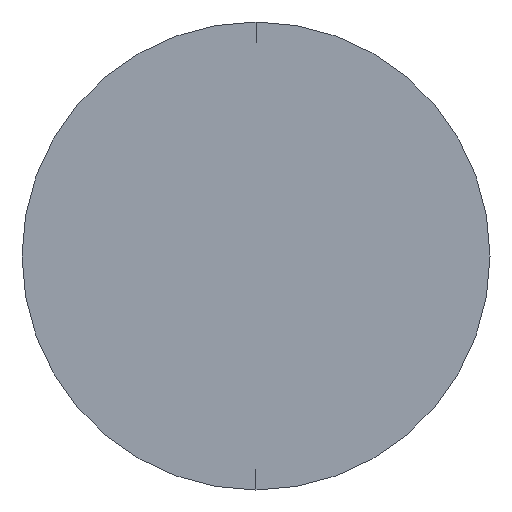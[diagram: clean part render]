
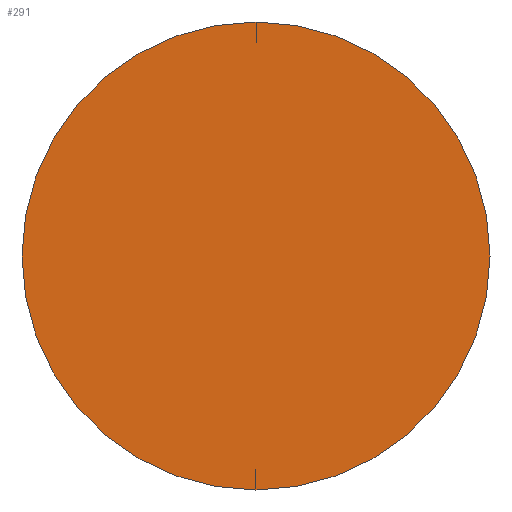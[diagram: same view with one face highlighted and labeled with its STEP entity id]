
A CAD part, left-side view. The second image highlights one B-rep face of the part: STEP entity #291.
In plain terms, the highlighted planar face has unit normal (-1, 0, 0).
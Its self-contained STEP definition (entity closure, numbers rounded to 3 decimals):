
#5 = ORIENTED_EDGE ( 'NONE', *, *, #185, .T. ) ;
#7 = CARTESIAN_POINT ( 'NONE',  ( 0., 0., 0.9 ) ) ;
#28 = EDGE_LOOP ( 'NONE', ( #5, #149 ) ) ;
#35 = CARTESIAN_POINT ( 'NONE',  ( 0., 0., 0. ) ) ;
#38 = CARTESIAN_POINT ( 'NONE',  ( 0., 0., -0.9 ) ) ;
#40 = VERTEX_POINT ( 'NONE', #7 ) ;
#89 = PLANE ( 'NONE',  #162 ) ;
#96 = DIRECTION ( 'NONE',  ( 0., 0., -1. ) ) ;
#125 = CARTESIAN_POINT ( 'NONE',  ( 0., 0., 0. ) ) ;
#139 = DIRECTION ( 'NONE',  ( 1., 0., 0. ) ) ;
#142 = CARTESIAN_POINT ( 'NONE',  ( 0., 0., 0. ) ) ;
#149 = ORIENTED_EDGE ( 'NONE', *, *, #272, .T. ) ;
#153 = DIRECTION ( 'NONE',  ( 0., 0., 1. ) ) ;
#162 = AXIS2_PLACEMENT_3D ( 'NONE', #142, #139, #96 ) ;
#174 = CIRCLE ( 'NONE', #208, 0.9 ) ;
#179 = DIRECTION ( 'NONE',  ( -1., 0., 0. ) ) ;
#185 = EDGE_CURVE ( 'NONE', #40, #259, #174, .T. ) ;
#195 = AXIS2_PLACEMENT_3D ( 'NONE', #125, #243, #153 ) ;
#202 = FACE_OUTER_BOUND ( 'NONE', #28, .T. ) ;
#208 = AXIS2_PLACEMENT_3D ( 'NONE', #35, #179, #241 ) ;
#222 = CIRCLE ( 'NONE', #195, 0.9 ) ;
#241 = DIRECTION ( 'NONE',  ( 0., 0., 1. ) ) ;
#243 = DIRECTION ( 'NONE',  ( -1., 0., 0. ) ) ;
#259 = VERTEX_POINT ( 'NONE', #38 ) ;
#272 = EDGE_CURVE ( 'NONE', #259, #40, #222, .T. ) ;
#291 = ADVANCED_FACE ( 'NONE', ( #202 ), #89, .F. ) ;
